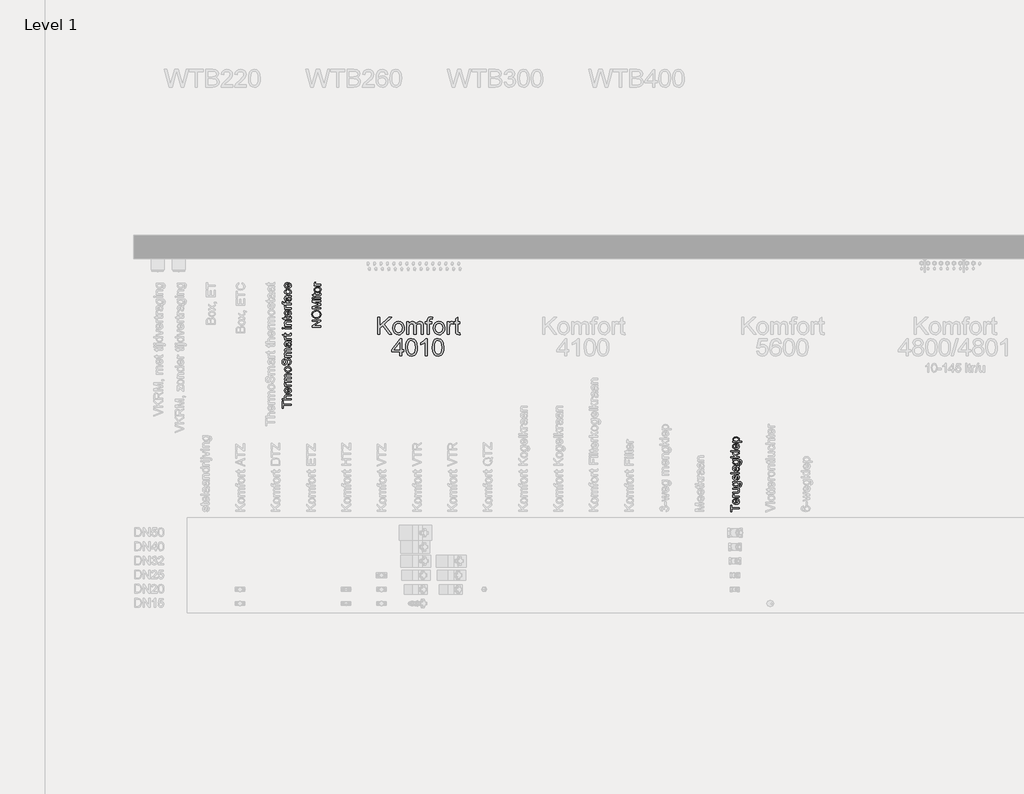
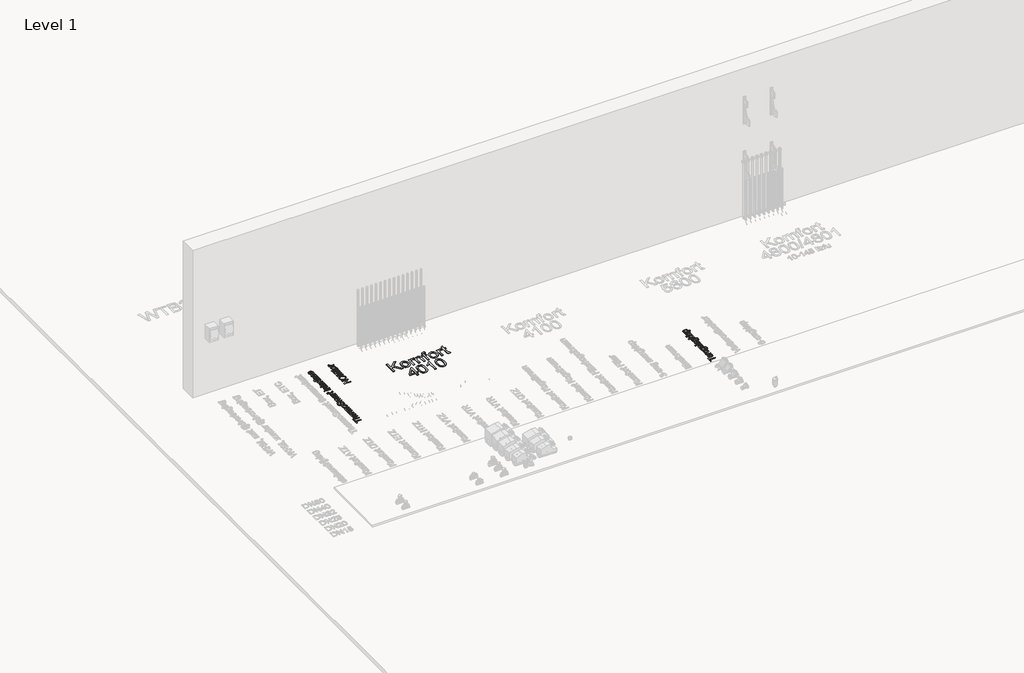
# One storey, part 20 of 34: 4 proxies.
"""IFC4 building model written with IfcOpenShell, lengths in millimetres."""

from ifc_helpers import new_model, si_unit, origin, origin_with_axes, place, context, project, spatial, polyline, outline, extrude, element, save

model = new_model("IFC4")

# Units and contexts
model_context = context("Model", 3, world=origin())
ifc_project = project(units=[si_unit("LENGTHUNIT", "METRE", prefix="MILLI")], contexts=[model_context])

# Site, building, storey
site = spatial("IfcSite", under=ifc_project)
building = spatial("IfcBuilding", under=site)
storey = spatial("IfcBuildingStorey", under=building, Name="Level 1", Elevation=0.0)

# Proxies
placement = place(None, origin())
element("IfcBuildingElementProxy", 1, Name="DN", ObjectType="DN", at=placement, inside=storey, context=model_context, shape_type="SweptSolid", body=[
    extrude(outline(polyline([(-12111.4250614, 5466.2805074), (-12176.040446, 5466.2805074), (-12176.040446, 5442.0497382), (-12185.2712152, 5442.0497382), (-12185.2712152, 5499.7420459), (-12176.040446, 5499.7420459), (-12176.040446, 5475.5112767), (-12111.4250614, 5475.5112767), (-12111.4250614, 5466.2805074)])), origin_with_axes(), (0.0, 0.0, 1.0), 5.0),
    extrude(outline(polyline([(-12127.5789075, 5546.9415651), (-12126.4250614, 5555.9920459), (-12114.5079941, 5547.5275026), (-12110.2712152, 5531.7612767), (-12112.0988895, 5520.9304473), (-12117.5819123, 5512.5966132), (-12126.364214, 5507.2826108), (-12138.0897248, 5505.5112767), (-12150.2096167, 5507.3006396), (-12159.2736191, 5512.6687286), (-12164.9256623, 5520.8898824), (-12166.8096768, 5531.2384401), (-12164.9301695, 5541.2647322), (-12159.2916479, 5549.2763007), (-12150.2456743, 5554.5294557), (-12138.1438114, 5556.2805074), (-12135.6558306, 5556.2264209), (-12135.6558306, 5514.7420459), (-12123.6666479, 5520.0515411), (-12119.5019844, 5531.9415651), (-12121.431071, 5540.9920459), (-12127.5789075, 5546.9415651)]), holes=[polyline([(-12144.8865998, 5514.7420459), (-12144.8865998, 5547.0497382), (-12153.2519844, 5543.3538247), (-12157.5789075, 5531.2023824), (-12154.1263835, 5519.8351949), (-12144.8865998, 5514.7420459)])]), origin_with_axes(), (0.0, 0.0, 1.0), 5.0),
    extrude(outline(polyline([(-12111.4250614, 5565.5112767), (-12165.6558306, 5565.5112767), (-12165.6558306, 5573.5881997), (-12157.6329941, 5573.5881997), (-12165.024821, 5579.3213728), (-12166.8096768, 5585.0906036), (-12163.9611191, 5594.3574305), (-12155.6858787, 5591.2744978), (-12157.5789075, 5584.7841132), (-12155.7579941, 5579.5647622), (-12150.7099171, 5576.2384401), (-12139.9286671, 5574.7420459), (-12111.4250614, 5574.7420459), (-12111.4250614, 5565.5112767)])), origin_with_axes(), (0.0, 0.0, 1.0), 5.0),
    extrude(outline(polyline([(-12111.4250614, 5634.7420459), (-12120.7459748, 5634.7420459), (-12112.8899051, 5627.5124786), (-12110.2712152, 5618.083392), (-12112.1101575, 5609.4025026), (-12116.7255421, 5603.4169257), (-12123.5224171, 5600.6675267), (-12132.1041479, 5600.1266613), (-12165.6558306, 5600.1266613), (-12165.6558306, 5609.3574305), (-12136.4490998, 5609.3574305), (-12127.0380421, 5609.9163247), (-12121.5122008, 5613.5671661), (-12119.5019844, 5620.4451709), (-12121.5572729, 5628.1525026), (-12127.1552296, 5633.2456517), (-12137.4406864, 5634.7420459), (-12165.6558306, 5634.7420459), (-12165.6558306, 5643.9728151), (-12111.4250614, 5643.9728151), (-12111.4250614, 5634.7420459)])), origin_with_axes(), (0.0, 0.0, 1.0), 5.0),
    extrude(outline(polyline([(-12106.8096768, 5654.3574305), (-12105.6558306, 5663.5881997), (-12100.7880421, 5666.5809882), (-12098.7327537, 5675.5413247), (-12101.0584748, 5684.9884401), (-12107.5849171, 5689.4956517), (-12118.3481383, 5690.1266613), (-12113.1558306, 5683.6272622), (-12111.4250614, 5675.7035843), (-12113.4397849, 5666.1866072), (-12119.4839556, 5659.0900026), (-12128.3451335, 5654.6751889), (-12138.8108787, 5653.2035843), (-12153.1167681, 5655.8448103), (-12163.2399652, 5663.4890411), (-12166.8096768, 5675.2528632), (-12164.790446, 5683.4875387), (-12158.7327537, 5690.1266613), (-12165.6558306, 5690.1266613), (-12165.6558306, 5699.3574305), (-12118.8349171, 5699.3574305), (-12100.9052296, 5696.833392), (-12092.5668883, 5688.8375988), (-12089.5019844, 5675.3610363), (-12093.8198931, 5660.0094738), (-12099.2262933, 5655.6712827), (-12106.8096768, 5654.3574305)]), holes=[polyline([(-12139.4418883, 5662.4343536), (-12125.1540277, 5666.3736565), (-12120.6558306, 5676.2624786), (-12125.1269844, 5686.1332718), (-12139.1714556, 5690.1266613), (-12152.9364796, 5686.0160843), (-12157.5789075, 5676.1182478), (-12153.008595, 5666.427743), (-12139.4418883, 5662.4343536)])]), origin_with_axes(), (0.0, 0.0, 1.0), 5.0),
    extrude(outline(polyline([(-12127.5789075, 5709.7420459), (-12128.7327537, 5718.9728151), (-12121.8817921, 5723.2456517), (-12119.5019844, 5733.0353151), (-12121.6834748, 5742.4463728), (-12126.8036671, 5745.5112767), (-12130.9503018, 5742.428344), (-12133.5825133, 5732.927142), (-12138.0987393, 5719.0269017), (-12143.3721768, 5712.9601949), (-12150.8180902, 5710.895892), (-12157.696095, 5712.5545459), (-12162.9515037, 5717.0797863), (-12165.6828739, 5722.9481757), (-12166.8096768, 5730.8898824), (-12164.9977777, 5742.1218536), (-12160.0939316, 5749.2612767), (-12151.8096768, 5752.4343536), (-12150.6558306, 5743.2035843), (-12155.7489796, 5739.7330315), (-12157.5789075, 5731.6110363), (-12155.8301094, 5722.7769017), (-12151.7555902, 5720.1266613), (-12149.0692921, 5721.2264209), (-12147.0320325, 5724.6699305), (-12145.0668883, 5732.6206517), (-12140.7219364, 5746.1693295), (-12135.8000614, 5752.4613968), (-12127.7772248, 5754.7420459), (-12118.9430902, 5752.0647622), (-12112.5338354, 5744.3394017), (-12110.2712152, 5732.9091132), (-12114.634196, 5716.8093536), (-12127.5789075, 5709.7420459)])), origin_with_axes(), (0.0, 0.0, 1.0), 5.0),
    extrude(outline(polyline([(-12111.4250614, 5765.1266613), (-12185.2712152, 5765.1266613), (-12185.2712152, 5774.3574305), (-12111.4250614, 5774.3574305), (-12111.4250614, 5765.1266613)])), origin_with_axes(), (0.0, 0.0, 1.0), 5.0),
    extrude(outline(polyline([(-12118.3481383, 5822.818969), (-12112.0921287, 5813.8676468), (-12110.2712152, 5803.9788247), (-12114.6522248, 5790.5743776), (-12125.8481383, 5785.895892), (-12133.149821, 5787.662719), (-12138.4503018, 5792.3051468), (-12141.4791479, 5798.7684882), (-12142.8673691, 5806.755267), (-12146.040446, 5822.7648824), (-12148.0957344, 5822.818969), (-12154.9106383, 5820.2769017), (-12157.5789075, 5810.0725747), (-12155.8030662, 5800.7336324), (-12149.5019844, 5796.2805074), (-12150.6558306, 5787.0497382), (-12159.6702537, 5791.0431276), (-12164.9527056, 5799.083993), (-12166.8096768, 5811.2624786), (-12165.1690518, 5822.4493776), (-12161.0494604, 5828.7684882), (-12154.7844364, 5831.599017), (-12146.7075133, 5832.0497382), (-12135.2231383, 5832.0497382), (-12119.1864796, 5832.5184882), (-12111.4250614, 5834.3574305), (-12111.4250614, 5825.1266613), (-12118.3481383, 5822.818969)]), holes=[polyline([(-12136.8096768, 5822.818969), (-12133.9791479, 5807.927142), (-12132.4827537, 5799.9854353), (-12130.0488594, 5796.3886805), (-12126.4971768, 5795.1266613), (-12121.5031864, 5797.8760603), (-12119.5019844, 5805.943969), (-12121.7105181, 5815.2829113), (-12127.056071, 5821.3045459), (-12134.1954941, 5822.7648824), (-12136.8096768, 5822.818969)])]), origin_with_axes(), (0.0, 0.0, 1.0), 5.0),
    extrude(outline(polyline([(-12106.8096768, 5842.4343536), (-12105.6558306, 5851.6651228), (-12100.7880421, 5854.6579113), (-12098.7327537, 5863.6182478), (-12101.0584748, 5873.0653632), (-12107.5849171, 5877.5725747), (-12118.3481383, 5878.2035843), (-12113.1558306, 5871.7041853), (-12111.4250614, 5863.7805074), (-12113.4397849, 5854.2635303), (-12119.4839556, 5847.1669257), (-12128.3451335, 5842.752112), (-12138.8108787, 5841.2805074), (-12153.1167681, 5843.9217334), (-12163.2399652, 5851.5659642), (-12166.8096768, 5863.3297863), (-12164.790446, 5871.5644618), (-12158.7327537, 5878.2035843), (-12165.6558306, 5878.2035843), (-12165.6558306, 5887.4343536), (-12118.8349171, 5887.4343536), (-12100.9052296, 5884.9103151), (-12092.5668883, 5876.9145218), (-12089.5019844, 5863.4379593), (-12093.8198931, 5848.0863968), (-12099.2262933, 5843.7482057), (-12106.8096768, 5842.4343536)]), holes=[polyline([(-12139.4418883, 5850.5112767), (-12125.1540277, 5854.4505795), (-12120.6558306, 5864.3394017), (-12125.1269844, 5874.2101949), (-12139.1714556, 5878.2035843), (-12152.9364796, 5874.0930074), (-12157.5789075, 5864.1951709), (-12153.008595, 5854.5046661), (-12139.4418883, 5850.5112767)])]), origin_with_axes(), (0.0, 0.0, 1.0), 5.0),
    extrude(outline(polyline([(-12111.4250614, 5901.2805074), (-12185.2712152, 5901.2805074), (-12185.2712152, 5910.5112767), (-12145.5897248, 5910.5112767), (-12165.6558306, 5931.208392), (-12165.6558306, 5943.9728151), (-12145.337321, 5923.0232959), (-12111.4250614, 5945.1266613), (-12111.4250614, 5934.3454113), (-12138.9190518, 5916.4067093), (-12133.2039075, 5910.5112767), (-12111.4250614, 5910.5112767), (-12111.4250614, 5901.2805074)])), origin_with_axes(), (0.0, 0.0, 1.0), 5.0),
    extrude(outline(polyline([(-12111.4250614, 5953.2035843), (-12185.2712152, 5953.2035843), (-12185.2712152, 5962.4343536), (-12111.4250614, 5962.4343536), (-12111.4250614, 5953.2035843)])), origin_with_axes(), (0.0, 0.0, 1.0), 5.0),
    extrude(outline(polyline([(-12127.5789075, 6014.2492574), (-12126.4250614, 6023.2997382), (-12114.5079941, 6014.8351949), (-12110.2712152, 5999.068969), (-12112.0988895, 5988.2381396), (-12117.5819123, 5979.9043055), (-12126.364214, 5974.5903031), (-12138.0897248, 5972.818969), (-12150.2096167, 5974.6083319), (-12159.2736191, 5979.9764209), (-12164.9256623, 5988.1975747), (-12166.8096768, 5998.5461324), (-12164.9301695, 6008.5724245), (-12159.2916479, 6016.583993), (-12150.2456743, 6021.837148), (-12138.1438114, 6023.5881997), (-12135.6558306, 6023.5341132), (-12135.6558306, 5982.0497382), (-12123.6666479, 5987.3592334), (-12119.5019844, 5999.2492574), (-12121.431071, 6008.2997382), (-12127.5789075, 6014.2492574)]), holes=[polyline([(-12144.8865998, 5982.0497382), (-12144.8865998, 6014.3574305), (-12153.2519844, 6010.661517), (-12157.5789075, 5998.5100747), (-12154.1263835, 5987.1428872), (-12144.8865998, 5982.0497382)])]), origin_with_axes(), (0.0, 0.0, 1.0), 5.0),
    extrude(outline(polyline([(-12090.6558306, 6032.818969), (-12165.6558306, 6032.818969), (-12165.6558306, 6042.0497382), (-12156.6053498, 6042.0497382), (-12164.258595, 6048.4319497), (-12166.8096768, 6057.0497382), (-12163.2399652, 6068.7504593), (-12153.1798691, 6076.3946901), (-12138.9551094, 6078.9728151), (-12124.0001816, 6076.0611565), (-12113.8138835, 6067.6056276), (-12110.2712152, 6055.9319497), (-12112.6420085, 6047.9000988), (-12118.6365998, 6042.0497382), (-12090.6558306, 6042.0497382), (-12090.6558306, 6032.818969)]), holes=[polyline([(-12138.1077537, 6042.0497382), (-12124.0452537, 6046.0431276), (-12119.5019844, 6055.7336324), (-12124.2075133, 6065.6224545), (-12138.7928498, 6069.7420459), (-12152.8914075, 6065.7216132), (-12157.5789075, 6056.1122382), (-12152.5939316, 6046.3135603), (-12138.1077537, 6042.0497382)])]), origin_with_axes(), (0.0, 0.0, 1.0), 5.0),
])
element("IfcBuildingElementProxy", 2, Name="DN", ObjectType="DN", at=placement, inside=storey, context=model_context, shape_type="SweptSolid", body=[
    extrude(outline(polyline([(-15916.0050414, 6347.9438416), (-15981.929495, 6347.9438416), (-15981.929495, 6323.2221716), (-15991.347274, 6323.2221716), (-15991.347274, 6382.0832908), (-15981.929495, 6382.0832908), (-15981.929495, 6357.3616207), (-15916.0050414, 6357.3616207), (-15916.0050414, 6347.9438416)])), origin_with_axes(), (0.0, 0.0, 1.0), 5.0),
    extrude(outline(polyline([(-15916.0050414, 6391.5010699), (-15991.347274, 6391.5010699), (-15991.347274, 6400.9188489), (-15963.6457598, 6400.9188489), (-15970.2952269, 6408.2626933), (-15972.5117159, 6417.3079918), (-15970.0928918, 6427.8845992), (-15963.4066365, 6434.30414), (-15951.0274074, 6436.2355205), (-15916.0050414, 6436.2355205), (-15916.0050414, 6426.8177414), (-15950.0525201, 6426.8177414), (-15959.9853339, 6423.8195031), (-15963.0939368, 6415.3214291), (-15960.9970094, 6407.6051042), (-15955.3132326, 6402.4547563), (-15945.3988128, 6400.9188489), (-15916.0050414, 6400.9188489), (-15916.0050414, 6391.5010699)])), origin_with_axes(), (0.0, 0.0, 1.0), 5.0),
    extrude(outline(polyline([(-15932.4861548, 6487.9229408), (-15931.3089324, 6497.1567789), (-15919.1504325, 6488.520749), (-15914.827819, 6472.4351088), (-15916.6925209, 6461.3848534), (-15922.2866265, 6452.8821808), (-15931.2468523, 6447.4605199), (-15943.209915, 6445.6532996), (-15955.5753485, 6447.478914), (-15964.8229822, 6452.9557572), (-15970.5895325, 6461.3434667), (-15972.5117159, 6471.9016799), (-15970.594131, 6482.1310986), (-15964.8413763, 6490.3049767), (-15955.6121367, 6495.6645575), (-15943.2650973, 6497.4510845), (-15940.7267115, 6497.3959022), (-15940.7267115, 6455.0710786), (-15928.4946352, 6460.488141), (-15924.2455981, 6472.6190498), (-15926.2137668, 6481.8528879), (-15932.4861548, 6487.9229408)]), holes=[polyline([(-15950.1444906, 6455.0710786), (-15950.1444906, 6488.0333054), (-15958.6793529, 6484.262515), (-15963.0939368, 6471.8648917), (-15959.5714667, 6460.2674118), (-15950.1444906, 6455.0710786)])]), origin_with_axes(), (0.0, 0.0, 1.0), 5.0),
    extrude(outline(polyline([(-15916.0050414, 6506.8688636), (-15971.3344935, 6506.8688636), (-15971.3344935, 6515.1094202), (-15963.1491191, 6515.1094202), (-15970.6907, 6520.958744), (-15972.5117159, 6526.8448559), (-15969.6054481, 6536.2994232), (-15961.1625563, 6533.1540321), (-15963.0939368, 6526.5321562), (-15961.2361327, 6521.2070643), (-15956.0857848, 6517.8133529), (-15945.0861131, 6516.2866426), (-15916.0050414, 6516.2866426), (-15916.0050414, 6506.8688636)])), origin_with_axes(), (0.0, 0.0, 1.0), 5.0),
    extrude(outline(polyline([(-15916.0050414, 6542.1855351), (-15971.3344935, 6542.1855351), (-15971.3344935, 6551.6033142), (-15962.2294141, 6551.6033142), (-15969.6882216, 6558.0780373), (-15972.5117159, 6567.2934813), (-15969.6330393, 6576.7296544), (-15961.5672265, 6581.9167906), (-15969.7755935, 6589.2652334), (-15972.5117159, 6598.5450568), (-15967.9591762, 6610.8599065), (-15953.9336751, 6615.1733229), (-15916.0050414, 6615.1733229), (-15916.0050414, 6605.7555439), (-15949.8869732, 6605.7555439), (-15957.7504508, 6604.8818241), (-15961.6224088, 6601.718039), (-15963.0939368, 6596.3377648), (-15959.3231463, 6587.0763356), (-15947.2382228, 6583.3883186), (-15916.0050414, 6583.3883186), (-15916.0050414, 6573.9705395), (-15950.9354369, 6573.9705395), (-15960.0589103, 6571.7908387), (-15963.0939368, 6564.6447309), (-15961.0705858, 6557.6733671), (-15955.1476857, 6553.038054), (-15943.9088907, 6551.6033142), (-15916.0050414, 6551.6033142), (-15916.0050414, 6542.1855351)])), origin_with_axes(), (0.0, 0.0, 1.0), 5.0),
    extrude(outline(polyline([(-15943.6697675, 6626.9455468), (-15957.0100883, 6628.9826933), (-15966.3864807, 6635.094133), (-15970.9804071, 6642.6449109), (-15972.5117159, 6651.685611), (-15970.647014, 6661.5793374), (-15965.0529084, 6669.4819025), (-15956.1708575, 6674.6621408), (-15944.4423196, 6676.3888869), (-15927.6852948, 6673.3354664), (-15918.2031363, 6664.4419191), (-15914.827819, 6651.685611), (-15916.6856231, 6641.6723229), (-15922.2590353, 6633.7789548), (-15931.3273265, 6628.6538988), (-15943.6697675, 6626.9455468)]), holes=[polyline([(-15943.6881616, 6636.3633259), (-15929.0924434, 6640.7227275), (-15924.2455981, 6651.685611), (-15929.1200345, 6662.6117062), (-15943.9824671, 6666.9711079), (-15958.2470915, 6662.5841151), (-15963.0939368, 6651.685611), (-15958.2654856, 6640.7227275), (-15943.6881616, 6636.3633259)])]), origin_with_axes(), (0.0, 0.0, 1.0), 5.0),
    extrude(outline(polyline([(-15941.9039339, 6684.6294436), (-15941.9039339, 6694.0472227), (-15932.4769577, 6697.0822492), (-15926.5172694, 6704.4950714), (-15924.2455981, 6715.7890486), (-15925.9654464, 6725.629892), (-15930.6927301, 6731.9850535), (-15937.0111033, 6734.0727838), (-15942.8880182, 6732.5092853), (-15947.1646464, 6726.1081386), (-15950.7606929, 6712.3953372), (-15955.4052031, 6697.6340722), (-15962.4133551, 6689.6234417), (-15971.7759519, 6686.9838884), (-15982.4353327, 6690.2488411), (-15989.9585195, 6699.7861818), (-15992.5244964, 6713.7473035), (-15989.8389578, 6728.6465243), (-15981.9478891, 6738.5793382), (-15970.1572711, 6742.3133405), (-15970.1572711, 6732.8955614), (-15979.8325676, 6727.5612725), (-15983.1067173, 6714.1151855), (-15979.8693558, 6700.6323104), (-15972.0518634, 6696.4016675), (-15965.521958, 6699.3999057), (-15960.2612454, 6714.7773731), (-15955.5339618, 6731.4424275), (-15947.9004104, 6740.5567039), (-15937.2502266, 6743.4905629), (-15925.9838405, 6740.1152455), (-15917.7616779, 6730.4031609), (-15914.827819, 6716.1569306), (-15917.9916042, 6699.3355264), (-15927.5197479, 6688.6945397), (-15941.9039339, 6684.6294436)])), origin_with_axes(), (0.0, 0.0, 1.0), 5.0),
    extrude(outline(polyline([(-15916.0050414, 6756.4400091), (-15971.3344935, 6756.4400091), (-15971.3344935, 6765.8577882), (-15962.2294141, 6765.8577882), (-15969.6882216, 6772.3325113), (-15972.5117159, 6781.5479553), (-15969.6330393, 6790.9841284), (-15961.5672265, 6796.1712646), (-15969.7755935, 6803.5197074), (-15972.5117159, 6812.7995307), (-15967.9591762, 6825.1143805), (-15953.9336751, 6829.4277969), (-15916.0050414, 6829.4277969), (-15916.0050414, 6820.0100179), (-15949.8869732, 6820.0100179), (-15957.7504508, 6819.1362981), (-15961.6224088, 6815.972513), (-15963.0939368, 6810.5922388), (-15959.3231463, 6801.3308095), (-15947.2382228, 6797.6427925), (-15916.0050414, 6797.6427925), (-15916.0050414, 6788.2250135), (-15950.9354369, 6788.2250135), (-15960.0589103, 6786.0453126), (-15963.0939368, 6778.8992049), (-15961.0705858, 6771.9278411), (-15955.1476857, 6767.2925279), (-15943.9088907, 6765.8577882), (-15916.0050414, 6765.8577882), (-15916.0050414, 6756.4400091)])), origin_with_axes(), (0.0, 0.0, 1.0), 5.0),
    extrude(outline(polyline([(-15923.0683757, 6878.8711371), (-15916.6856231, 6869.7384665), (-15914.827819, 6859.6493028), (-15919.2975853, 6845.9732897), (-15930.7203212, 6841.2000208), (-15938.1699316, 6843.0026425), (-15943.577797, 6847.7391232), (-15946.6680057, 6854.333408), (-15948.0843514, 6862.4819942), (-15951.321713, 6878.8159548), (-15953.4186403, 6878.8711371), (-15960.37161, 6876.277569), (-15963.0939368, 6865.8665085), (-15961.282118, 6856.3383649), (-15954.8533801, 6851.7950222), (-15956.0306025, 6842.3772432), (-15965.2276524, 6846.4515363), (-15970.6171236, 6854.6553047), (-15972.5117159, 6867.0805191), (-15970.8378528, 6878.494058), (-15966.634801, 6884.94119), (-15960.2428513, 6887.8290637), (-15952.0022946, 6888.2889162), (-15940.2852531, 6888.2889162), (-15923.9237014, 6888.7671627), (-15916.0050414, 6890.6433609), (-15916.0050414, 6881.2255818), (-15923.0683757, 6878.8711371)]), holes=[polyline([(-15941.9039339, 6878.8711371), (-15939.0160602, 6863.6776107), (-15937.4893499, 6855.5750097), (-15935.0061465, 6851.9053868), (-15931.3825088, 6850.6177998), (-15926.2873432, 6853.4229001), (-15924.2455981, 6861.6542597), (-15926.4988753, 6871.1824034), (-15931.9527259, 6877.3260327), (-15939.2367894, 6878.8159548), (-15941.9039339, 6878.8711371)])]), origin_with_axes(), (0.0, 0.0, 1.0), 5.0),
    extrude(outline(polyline([(-15916.0050414, 6901.2383624), (-15971.3344935, 6901.2383624), (-15971.3344935, 6909.4789191), (-15963.1491191, 6909.4789191), (-15970.6907, 6915.3282428), (-15972.5117159, 6921.2143547), (-15969.6054481, 6930.668922), (-15961.1625563, 6927.5235309), (-15963.0939368, 6920.901655), (-15961.2361327, 6915.5765631), (-15956.0857848, 6912.1828517), (-15945.0861131, 6910.6561415), (-15916.0050414, 6910.6561415), (-15916.0050414, 6901.2383624)])), origin_with_axes(), (0.0, 0.0, 1.0), 5.0),
    extrude(outline(polyline([(-15923.859322, 6956.5678145), (-15915.7291299, 6957.7450368), (-15914.827819, 6950.7000966), (-15916.3913175, 6942.8090278), (-15920.4932018, 6938.8726905), (-15931.1801737, 6937.7322563), (-15961.9167144, 6937.7322563), (-15961.9167144, 6930.668922), (-15971.3344935, 6930.668922), (-15971.3344935, 6937.7322563), (-15984.7805804, 6937.7322563), (-15990.3172044, 6947.1500354), (-15971.3344935, 6947.1500354), (-15971.3344935, 6956.5678145), (-15961.9167144, 6956.5678145), (-15961.9167144, 6947.1500354), (-15931.4560852, 6947.1500354), (-15926.6000429, 6947.6466761), (-15924.8801945, 6949.2561598), (-15924.2455981, 6952.4659302), (-15923.859322, 6956.5678145)])), origin_with_axes(), (0.0, 0.0, 1.0), 5.0),
    extrude(outline(polyline([(-15981.929495, 6995.4161532), (-15991.347274, 6995.4161532), (-15991.347274, 7004.8339322), (-15981.929495, 7004.8339322), (-15981.929495, 6995.4161532)])), origin_with_axes(), (0.0, 0.0, 1.0), 5.0),
    extrude(outline(polyline([(-15916.0050414, 6995.4161532), (-15971.3344935, 6995.4161532), (-15971.3344935, 7004.8339322), (-15916.0050414, 7004.8339322), (-15916.0050414, 6995.4161532)])), origin_with_axes(), (0.0, 0.0, 1.0), 5.0),
    extrude(outline(polyline([(-15916.0050414, 7018.9606008), (-15971.3344935, 7018.9606008), (-15971.3344935, 7028.3783799), (-15963.6089716, 7028.3783799), (-15970.2860298, 7035.57967), (-15972.5117159, 7045.4113163), (-15970.7182911, 7054.3048635), (-15966.0094016, 7060.3749164), (-15959.0840231, 7063.1984108), (-15949.9789437, 7063.6950515), (-15916.0050414, 7063.6950515), (-15916.0050414, 7054.2772724), (-15948.7097508, 7054.2772724), (-15957.042278, 7053.1920205), (-15961.4476649, 7049.3568507), (-15963.0939368, 7042.8913246), (-15959.3967227, 7032.6734022), (-15945.3620246, 7028.3783799), (-15916.0050414, 7028.3783799), (-15916.0050414, 7018.9606008)])), origin_with_axes(), (0.0, 0.0, 1.0), 5.0),
    extrude(outline(polyline([(-15923.859322, 7096.6572782), (-15915.7291299, 7097.8345006), (-15914.827819, 7090.7895604), (-15916.3913175, 7082.8984916), (-15920.4932018, 7078.9621543), (-15931.1801737, 7077.8217201), (-15961.9167144, 7077.8217201), (-15961.9167144, 7070.7583858), (-15971.3344935, 7070.7583858), (-15971.3344935, 7077.8217201), (-15984.7805804, 7077.8217201), (-15990.3172044, 7087.2394991), (-15971.3344935, 7087.2394991), (-15971.3344935, 7096.6572782), (-15961.9167144, 7096.6572782), (-15961.9167144, 7087.2394991), (-15931.4560852, 7087.2394991), (-15926.6000429, 7087.7361398), (-15924.8801945, 7089.3456236), (-15924.2455981, 7092.555394), (-15923.859322, 7096.6572782)])), origin_with_axes(), (0.0, 0.0, 1.0), 5.0),
    extrude(outline(polyline([(-15932.4861548, 7144.8130314), (-15931.3089324, 7154.0468695), (-15919.1504325, 7145.4108396), (-15914.827819, 7129.3251994), (-15916.6925209, 7118.274944), (-15922.2866265, 7109.7722714), (-15931.2468523, 7104.3506104), (-15943.209915, 7102.5433901), (-15955.5753485, 7104.3690045), (-15964.8229822, 7109.8458478), (-15970.5895325, 7118.2335572), (-15972.5117159, 7128.7917705), (-15970.594131, 7139.0211892), (-15964.8413763, 7147.1950673), (-15955.6121367, 7152.5546481), (-15943.2650973, 7154.3411751), (-15940.7267115, 7154.2859928), (-15940.7267115, 7111.9611692), (-15928.4946352, 7117.3782316), (-15924.2455981, 7129.5091404), (-15926.2137668, 7138.7429785), (-15932.4861548, 7144.8130314)]), holes=[polyline([(-15950.1444906, 7111.9611692), (-15950.1444906, 7144.923396), (-15958.6793529, 7141.1526055), (-15963.0939368, 7128.7549823), (-15959.5714667, 7117.1575024), (-15950.1444906, 7111.9611692)])]), origin_with_axes(), (0.0, 0.0, 1.0), 5.0),
    extrude(outline(polyline([(-15916.0050414, 7163.7589541), (-15971.3344935, 7163.7589541), (-15971.3344935, 7171.9995108), (-15963.1491191, 7171.9995108), (-15970.6907, 7177.8488346), (-15972.5117159, 7183.7349465), (-15969.6054481, 7193.1895138), (-15961.1625563, 7190.0441227), (-15963.0939368, 7183.4222468), (-15961.2361327, 7178.0971549), (-15956.0857848, 7174.7034435), (-15945.0861131, 7173.1767332), (-15916.0050414, 7173.1767332), (-15916.0050414, 7163.7589541)])), origin_with_axes(), (0.0, 0.0, 1.0), 5.0),
    extrude(outline(polyline([(-15916.0050414, 7201.4300704), (-15961.9167144, 7201.4300704), (-15961.9167144, 7193.1895138), (-15971.3344935, 7193.1895138), (-15971.3344935, 7201.4300704), (-15976.9079057, 7201.4300704), (-15984.7621863, 7202.4233518), (-15990.3723867, 7207.242606), (-15992.5244964, 7216.7339614), (-15991.4944268, 7225.324006), (-15982.6652589, 7223.9444486), (-15983.1067173, 7218.5181891), (-15981.5432189, 7212.586092), (-15975.7122892, 7210.8478495), (-15971.3344935, 7210.8478495), (-15971.3344935, 7221.442851), (-15961.9167144, 7221.442851), (-15961.9167144, 7210.8478495), (-15916.0050414, 7210.8478495), (-15916.0050414, 7201.4300704)])), origin_with_axes(), (0.0, 0.0, 1.0), 5.0),
    extrude(outline(polyline([(-15923.0683757, 7265.0000792), (-15916.6856231, 7255.8674087), (-15914.827819, 7245.778245), (-15919.2975853, 7232.1022318), (-15930.7203212, 7227.3289629), (-15938.1699316, 7229.1315847), (-15943.577797, 7233.8680654), (-15946.6680057, 7240.4623501), (-15948.0843514, 7248.6109363), (-15951.321713, 7264.9448969), (-15953.4186403, 7265.0000792), (-15960.37161, 7262.4065111), (-15963.0939368, 7251.9954507), (-15961.282118, 7242.467307), (-15954.8533801, 7237.9239644), (-15956.0306025, 7228.5061853), (-15965.2276524, 7232.5804784), (-15970.6171236, 7240.7842469), (-15972.5117159, 7253.2094613), (-15970.8378528, 7264.6230002), (-15966.634801, 7271.0701321), (-15960.2428513, 7273.9580058), (-15952.0022946, 7274.4178583), (-15940.2852531, 7274.4178583), (-15923.9237014, 7274.8961049), (-15916.0050414, 7276.7723031), (-15916.0050414, 7267.354524), (-15923.0683757, 7265.0000792)]), holes=[polyline([(-15941.9039339, 7265.0000792), (-15939.0160602, 7249.8065528), (-15937.4893499, 7241.7039519), (-15935.0061465, 7238.034329), (-15931.3825088, 7236.746742), (-15926.2873432, 7239.5518422), (-15924.2455981, 7247.7832018), (-15926.4988753, 7257.3113455), (-15931.9527259, 7263.4549748), (-15939.2367894, 7264.9448969), (-15941.9039339, 7265.0000792)])]), origin_with_axes(), (0.0, 0.0, 1.0), 5.0),
    extrude(outline(polyline([(-15936.017822, 7322.6839761), (-15934.8405996, 7332.1017551), (-15920.1345168, 7324.5417801), (-15914.827819, 7309.6057711), (-15916.6787253, 7299.5878846), (-15922.2314442, 7291.7542973), (-15931.2422538, 7286.6982191), (-15943.4674324, 7285.0128598), (-15959.1116142, 7287.8915364), (-15969.1639897, 7296.665522), (-15972.5117159, 7309.4770124), (-15967.9131909, 7323.7968191), (-15954.8533801, 7330.9245328), (-15953.6761577, 7321.5067537), (-15960.730295, 7317.138155), (-15963.0939368, 7309.5505888), (-15958.4402296, 7298.6336906), (-15943.7249498, 7294.4306388), (-15928.8717142, 7298.5417201), (-15924.2455981, 7309.2930714), (-15927.1334718, 7318.1682246), (-15936.017822, 7322.6839761)])), origin_with_axes(), (0.0, 0.0, 1.0), 5.0),
    extrude(outline(polyline([(-15932.4861548, 7379.0802859), (-15931.3089324, 7388.314124), (-15919.1504325, 7379.6780942), (-15914.827819, 7363.5924539), (-15916.6925209, 7352.5421985), (-15922.2866265, 7344.0395259), (-15931.2468523, 7338.617865), (-15943.209915, 7336.8106447), (-15955.5753485, 7338.6362591), (-15964.8229822, 7344.1131023), (-15970.5895325, 7352.5008118), (-15972.5117159, 7363.059025), (-15970.594131, 7373.2884438), (-15964.8413763, 7381.4623218), (-15955.6121367, 7386.8219027), (-15943.2650973, 7388.6084296), (-15940.7267115, 7388.5532473), (-15940.7267115, 7346.2284238), (-15928.4946352, 7351.6454861), (-15924.2455981, 7363.7763949), (-15926.2137668, 7373.010233), (-15932.4861548, 7379.0802859)]), holes=[polyline([(-15950.1444906, 7346.2284238), (-15950.1444906, 7379.1906505), (-15958.6793529, 7375.4198601), (-15963.0939368, 7363.0222368), (-15959.5714667, 7351.4247569), (-15950.1444906, 7346.2284238)])]), origin_with_axes(), (0.0, 0.0, 1.0), 5.0),
])
element("IfcBuildingElementProxy", 3, Name="DN", ObjectType="DN", at=placement, inside=storey, context=model_context, shape_type="SweptSolid", body=[
    extrude(outline(polyline([(-15663.5050414, 7010.7200441), (-15738.847274, 7010.7200441), (-15738.847274, 7020.8000108), (-15679.1584203, 7060.1633843), (-15738.847274, 7060.1633843), (-15738.847274, 7069.5811634), (-15663.5050414, 7069.5811634), (-15663.5050414, 7059.5011967), (-15723.2122892, 7020.1378232), (-15663.5050414, 7020.1378232), (-15663.5050414, 7010.7200441)])), origin_with_axes(), (0.0, 0.0, 1.0), 5.0),
    extrude(outline(polyline([(-15700.1828763, 7082.5306096), (-15716.8433322, 7085.0414042), (-15729.4478891, 7092.5737881), (-15737.3803446, 7104.074699), (-15740.0244964, 7118.4910746), (-15735.0580895, 7137.2346623), (-15721.2073324, 7149.9633793), (-15701.047399, 7154.3411751), (-15680.6115542, 7149.7334531), (-15666.9631322, 7136.6736422), (-15662.327819, 7118.4358923), (-15667.4505758, 7099.4899696), (-15681.4300916, 7086.834829), (-15700.1828763, 7082.5306096)]), holes=[polyline([(-15700.0909058, 7091.9483887), (-15688.3048864, 7093.8314846), (-15679.3239672, 7099.4807725), (-15673.6401904, 7107.9719488), (-15671.7455981, 7118.38071), (-15673.6585845, 7128.9412226), (-15679.3975436, 7137.4461944), (-15688.6543743, 7143.0540956), (-15701.1209754, 7144.923396), (-15716.6639897, 7141.7228226), (-15726.9554885, 7132.3694229), (-15730.6067173, 7118.5462569), (-15728.8477815, 7108.4157065), (-15723.5709742, 7099.8026693), (-15714.1830855, 7093.9119588), (-15700.0909058, 7091.9483887)])]), origin_with_axes(), (0.0, 0.0, 1.0), 5.0),
    extrude(outline(polyline([(-15663.5050414, 7167.2906213), (-15738.847274, 7167.2906213), (-15738.847274, 7183.4958232), (-15685.743508, 7198.9100788), (-15674.6518659, 7202.0186816), (-15686.663213, 7205.3848019), (-15738.847274, 7220.5415401), (-15738.847274, 7236.746742), (-15663.5050414, 7236.746742), (-15663.5050414, 7227.3289629), (-15729.429495, 7227.3289629), (-15663.5050414, 7208.4014343), (-15663.5050414, 7195.635929), (-15729.429495, 7176.7084004), (-15663.5050414, 7176.7084004), (-15663.5050414, 7167.2906213)])), origin_with_axes(), (0.0, 0.0, 1.0), 5.0),
    extrude(outline(polyline([(-15663.5050414, 7252.050633), (-15718.8344935, 7252.050633), (-15718.8344935, 7261.4684121), (-15663.5050414, 7261.4684121), (-15663.5050414, 7252.050633)])), origin_with_axes(), (0.0, 0.0, 1.0), 5.0),
    extrude(outline(polyline([(-15729.429495, 7252.050633), (-15738.847274, 7252.050633), (-15738.847274, 7261.4684121), (-15729.429495, 7261.4684121), (-15729.429495, 7252.050633)])), origin_with_axes(), (0.0, 0.0, 1.0), 5.0),
    extrude(outline(polyline([(-15671.359322, 7295.6078612), (-15663.2291299, 7296.7850836), (-15662.327819, 7289.7401434), (-15663.8913175, 7281.8490746), (-15667.9932018, 7277.9127372), (-15678.6801737, 7276.7723031), (-15709.4167144, 7276.7723031), (-15709.4167144, 7269.7089688), (-15718.8344935, 7269.7089688), (-15718.8344935, 7276.7723031), (-15732.2805804, 7276.7723031), (-15737.8172044, 7286.1900821), (-15718.8344935, 7286.1900821), (-15718.8344935, 7295.6078612), (-15709.4167144, 7295.6078612), (-15709.4167144, 7286.1900821), (-15678.9560852, 7286.1900821), (-15674.1000429, 7286.6867228), (-15672.3801945, 7288.2962066), (-15671.7455981, 7291.505977), (-15671.359322, 7295.6078612)])), origin_with_axes(), (0.0, 0.0, 1.0), 5.0),
    extrude(outline(polyline([(-15691.1697675, 7302.6711955), (-15704.5100883, 7304.7083421), (-15713.8864807, 7310.8197817), (-15718.4804071, 7318.3705597), (-15720.0117159, 7327.4112597), (-15718.147014, 7337.3049861), (-15712.5529084, 7345.2075512), (-15703.6708575, 7350.3877896), (-15691.9423196, 7352.1145357), (-15675.1852948, 7349.0611151), (-15665.7031363, 7340.1675679), (-15662.327819, 7327.4112597), (-15664.1856231, 7317.3979716), (-15669.7590353, 7309.5046036), (-15678.8273265, 7304.3795475), (-15691.1697675, 7302.6711955)]), holes=[polyline([(-15691.1881616, 7312.0889746), (-15676.5924434, 7316.4483762), (-15671.7455981, 7327.4112597), (-15676.6200345, 7338.337355), (-15691.4824671, 7342.6967566), (-15705.7470915, 7338.3097638), (-15710.5939368, 7327.4112597), (-15705.7654856, 7316.4483762), (-15691.1881616, 7312.0889746)])]), origin_with_axes(), (0.0, 0.0, 1.0), 5.0),
    extrude(outline(polyline([(-15663.5050414, 7362.7095371), (-15718.8344935, 7362.7095371), (-15718.8344935, 7370.9500938), (-15710.6491191, 7370.9500938), (-15718.1907, 7376.7994176), (-15720.0117159, 7382.6855295), (-15717.1054481, 7392.1400967), (-15708.6625563, 7388.9947057), (-15710.5939368, 7382.3728298), (-15708.7361327, 7377.0477379), (-15703.5857848, 7373.6540265), (-15692.5861131, 7372.1273162), (-15663.5050414, 7372.1273162), (-15663.5050414, 7362.7095371)])), origin_with_axes(), (0.0, 0.0, 1.0), 5.0),
])
element("IfcBuildingElementProxy", 4, Name="type", ObjectType="type", at=placement, inside=storey, context=model_context, shape_type="SweptSolid", body=[
    extrude(outline(polyline([(-15182.4458673, 6948.0579707), (-15182.4458673, 7095.7502784), (-15163.9843288, 7095.7502784), (-15163.9843288, 7023.4546053), (-15088.263175, 7095.7502784), (-15062.4458673, 7095.7502784), (-15126.0155788, 7035.0291245), (-15060.138175, 6948.0579707), (-15082.7102904, 6948.0579707), (-15139.1045211, 7022.553163), (-15163.9843288, 6998.8272014), (-15163.9843288, 6948.0579707), (-15182.4458673, 6948.0579707)])), origin_with_axes(), (0.0, 0.0, 1.0), 5.0),
    extrude(outline(polyline([(-15053.2150981, 7002.2887399), (-15049.2217086, 7028.4395812), (-15037.2415404, 7046.8199899), (-15022.4398577, 7055.8253985), (-15004.7175019, 7058.8272014), (-14985.3229706, 7055.1718529), (-14969.8316846, 7044.2058072), (-14959.676937, 7026.794449), (-14956.2920211, 7003.803163), (-14957.7884154, 6985.1523216), (-14962.2775981, 6970.9546053), (-14969.6288601, 6960.3220933), (-14979.7114923, 6952.3668649), (-14991.6871533, 6947.404425), (-15004.7175019, 6945.7502784), (-15024.3464081, 6949.3921053), (-15039.8196654, 6960.317586), (-15049.8662399, 6978.0940284), (-15053.2150981, 7002.2887399)]), holes=[polyline([(-15034.7535596, 7002.3247976), (-15032.6171413, 6985.6165644), (-15026.2078865, 6973.7130187), (-15016.5624538, 6966.5871173), (-15004.7175019, 6964.2118168), (-14992.9266365, 6966.6006389), (-14983.2992327, 6973.7671053), (-14976.8899779, 6985.8284034), (-14974.7535596, 7002.9017207), (-14976.9034995, 7019.123175), (-14983.3533192, 7030.864461), (-14992.9942447, 7037.9903625), (-15004.7175019, 7040.365663), (-15016.5624538, 7037.9993769), (-15026.2078865, 7030.9005187), (-15032.6171413, 7019.0240163), (-15034.7535596, 7002.3247976)])]), origin_with_axes(), (0.0, 0.0, 1.0), 5.0),
    extrude(outline(polyline([(-14935.5227904, 6948.0579707), (-14935.5227904, 7056.5195091), (-14917.0612519, 7056.5195091), (-14917.0612519, 7038.6709514), (-14904.3689442, 7053.2923457), (-14886.3040404, 7058.8272014), (-14876.0366125, 7057.4164442), (-14867.8064442, 7053.1841726), (-14857.638175, 7037.3728745), (-14843.2331269, 7053.4636197), (-14825.0420211, 7058.8272014), (-14811.1643168, 7056.5961317), (-14800.9013961, 7049.9029226), (-14794.5597495, 7038.5672856), (-14792.4458673, 7022.4089322), (-14792.4458673, 6948.0579707), (-14810.9074057, 6948.0579707), (-14810.9074057, 7014.4762399), (-14812.6201461, 7029.8909034), (-14818.8220692, 7037.4810476), (-14829.3689442, 7040.365663), (-14839.3704466, 7038.5177062), (-14847.5239923, 7032.973836), (-14852.9461678, 7023.3554466), (-14854.7535596, 7009.2839322), (-14854.7535596, 6948.0579707), (-14873.2150981, 6948.0579707), (-14873.2150981, 7016.5315284), (-14877.4879346, 7034.4161437), (-14883.1264562, 7038.8782832), (-14891.4963481, 7040.365663), (-14905.1622134, 7036.3993168), (-14914.2487519, 7024.7887399), (-14917.0612519, 7002.7574899), (-14917.0612519, 6948.0579707), (-14935.5227904, 6948.0579707)])), origin_with_axes(), (0.0, 0.0, 1.0), 5.0),
    extrude(outline(polyline([(-14760.138175, 6948.0579707), (-14760.138175, 7038.0579707), (-14776.2920211, 7038.0579707), (-14776.2920211, 7056.5195091), (-14760.138175, 7056.5195091), (-14760.138175, 7067.4449899), (-14758.1910596, 7082.8416245), (-14748.7439442, 7093.8392207), (-14730.138175, 7098.0579707), (-14713.2992327, 7096.0387399), (-14716.0035596, 7078.7310476), (-14726.6405788, 7079.5964322), (-14738.2691846, 7076.5315284), (-14741.6766365, 7065.1012399), (-14741.6766365, 7056.5195091), (-14720.9074057, 7056.5195091), (-14720.9074057, 7038.0579707), (-14741.6766365, 7038.0579707), (-14741.6766365, 6948.0579707), (-14760.138175, 6948.0579707)])), origin_with_axes(), (0.0, 0.0, 1.0), 5.0),
    extrude(outline(polyline([(-14709.3689442, 7002.2887399), (-14705.3755548, 7028.4395812), (-14693.3953865, 7046.8199899), (-14678.5937038, 7055.8253985), (-14660.8713481, 7058.8272014), (-14641.4768168, 7055.1718529), (-14625.9855307, 7044.2058072), (-14615.8307831, 7026.794449), (-14612.4458673, 7003.803163), (-14613.9422615, 6985.1523216), (-14618.4314442, 6970.9546053), (-14625.7827062, 6960.3220933), (-14635.8653384, 6952.3668649), (-14647.8409995, 6947.404425), (-14660.8713481, 6945.7502784), (-14680.5002543, 6949.3921053), (-14695.9735115, 6960.317586), (-14706.020086, 6978.0940284), (-14709.3689442, 7002.2887399)]), holes=[polyline([(-14690.9074057, 7002.3247976), (-14688.7709875, 6985.6165644), (-14682.3617327, 6973.7130187), (-14672.7163, 6966.5871173), (-14660.8713481, 6964.2118168), (-14649.0804827, 6966.6006389), (-14639.4530788, 6973.7671053), (-14633.043824, 6985.8284034), (-14630.9074057, 7002.9017207), (-14633.0573456, 7019.123175), (-14639.5071654, 7030.864461), (-14649.1480908, 7037.9903625), (-14660.8713481, 7040.365663), (-14672.7163, 7037.9993769), (-14682.3617327, 7030.9005187), (-14688.7709875, 7019.0240163), (-14690.9074057, 7002.3247976)])]), origin_with_axes(), (0.0, 0.0, 1.0), 5.0),
    extrude(outline(polyline([(-14591.6766365, 6948.0579707), (-14591.6766365, 7056.5195091), (-14575.5227904, 7056.5195091), (-14575.5227904, 7040.473836), (-14564.0564442, 7055.2574899), (-14552.5179827, 7058.8272014), (-14533.9843288, 7053.130086), (-14540.1501942, 7036.5796053), (-14553.1309634, 7040.365663), (-14563.5696654, 7036.723836), (-14570.2223096, 7026.6276822), (-14573.2150981, 7005.0651822), (-14573.2150981, 6948.0579707), (-14591.6766365, 6948.0579707)])), origin_with_axes(), (0.0, 0.0, 1.0), 5.0),
    extrude(outline(polyline([(-14483.2150981, 6963.4546053), (-14480.9074057, 6947.5171053), (-14494.7175019, 6945.7502784), (-14510.1862519, 6948.8151822), (-14517.9025981, 6956.8560476), (-14520.138175, 6977.8055668), (-14520.138175, 7038.0579707), (-14533.9843288, 7038.0579707), (-14533.9843288, 7056.5195091), (-14520.138175, 7056.5195091), (-14520.138175, 7082.8776822), (-14501.6766365, 7093.7310476), (-14501.6766365, 7056.5195091), (-14483.2150981, 7056.5195091), (-14483.2150981, 7038.0579707), (-14501.6766365, 7038.0579707), (-14501.6766365, 6978.3464322), (-14500.7030788, 6968.8272014), (-14497.5480307, 6965.4558072), (-14491.2559634, 6964.2118168), (-14483.2150981, 6963.4546053)])), origin_with_axes(), (0.0, 0.0, 1.0), 5.0),
    extrude(outline(polyline([(-14995.5227904, 6765.7502784), (-14995.5227904, 6800.365663), (-15062.4458673, 6800.365663), (-15062.4458673, 6818.8272014), (-14990.9074057, 6911.1348937), (-14977.0612519, 6911.1348937), (-14977.0612519, 6818.8272014), (-14958.5997134, 6818.8272014), (-14958.5997134, 6800.365663), (-14977.0612519, 6800.365663), (-14977.0612519, 6765.7502784), (-14995.5227904, 6765.7502784)]), holes=[polyline([(-14995.5227904, 6818.8272014), (-14995.5227904, 6875.8704707), (-15039.7295211, 6818.8272014), (-14995.5227904, 6818.8272014)])]), origin_with_axes(), (0.0, 0.0, 1.0), 5.0),
    extrude(outline(polyline([(-14942.4458673, 6838.4065284), (-14941.0891966, 6862.0468529), (-14937.0191846, 6880.9005187), (-14930.2763961, 6895.2559875), (-14920.9013961, 6905.4017207), (-14908.8265764, 6911.4323697), (-14893.9843288, 6913.442586), (-14872.4218288, 6908.6829707), (-14857.5300019, 6894.9630187), (-14848.8761557, 6873.1120572), (-14845.5227904, 6838.4065284), (-14846.8659394, 6814.9014202), (-14850.8953865, 6796.0928264), (-14857.5976101, 6781.723836), (-14866.9590884, 6771.537538), (-14879.0609514, 6765.466324), (-14893.9843288, 6763.442586), (-14913.1670211, 6766.958211), (-14927.7343288, 6777.505086), (-14938.7679827, 6802.4840524), (-14942.4458673, 6838.4065284)]), holes=[polyline([(-14923.9843288, 6838.442586), (-14921.8208673, 6809.4026221), (-14915.3304827, 6792.5952303), (-14905.6670211, 6784.576901), (-14893.9843288, 6781.9041245), (-14882.3016365, 6784.5859154), (-14872.638175, 6792.631288), (-14866.1477904, 6809.4476942), (-14863.9843288, 6838.442586), (-14866.075675, 6866.8290043), (-14872.3497134, 6883.7671053), (-14881.9951461, 6892.177562), (-14894.200675, 6894.9810476), (-14905.7571654, 6892.5110957), (-14915.0420211, 6885.1012399), (-14921.7487519, 6867.1084514), (-14923.9843288, 6838.442586)])]), origin_with_axes(), (0.0, 0.0, 1.0), 5.0),
    extrude(outline(polyline([(-14760.138175, 6765.7502784), (-14778.5997134, 6765.7502784), (-14778.5997134, 6880.8464322), (-14796.0876942, 6868.3884995), (-14815.5227904, 6859.067586), (-14815.5227904, 6876.5195091), (-14788.4614923, 6893.7911437), (-14772.0372134, 6913.442586), (-14760.138175, 6913.442586), (-14760.138175, 6765.7502784)])), origin_with_axes(), (0.0, 0.0, 1.0), 5.0),
    extrude(outline(polyline([(-14716.2920211, 6838.4065284), (-14714.9353505, 6862.0468529), (-14710.8653384, 6880.9005187), (-14704.12255, 6895.2559875), (-14694.74755, 6905.4017207), (-14682.6727303, 6911.4323697), (-14667.8304827, 6913.442586), (-14646.2679827, 6908.6829707), (-14631.3761557, 6894.9630187), (-14622.7223096, 6873.1120572), (-14619.3689442, 6838.4065284), (-14620.7120932, 6814.9014202), (-14624.7415404, 6796.0928264), (-14631.4437639, 6781.723836), (-14640.8052423, 6771.537538), (-14652.9071053, 6765.466324), (-14667.8304827, 6763.442586), (-14687.013175, 6766.958211), (-14701.5804827, 6777.505086), (-14712.6141365, 6802.4840524), (-14716.2920211, 6838.4065284)]), holes=[polyline([(-14697.8304827, 6838.442586), (-14695.6670211, 6809.4026221), (-14689.1766365, 6792.5952303), (-14679.513175, 6784.576901), (-14667.8304827, 6781.9041245), (-14656.1477904, 6784.5859154), (-14646.4843288, 6792.631288), (-14639.9939442, 6809.4476942), (-14637.8304827, 6838.442586), (-14639.9218288, 6866.8290043), (-14646.1958673, 6883.7671053), (-14655.8413, 6892.177562), (-14668.0468288, 6894.9810476), (-14679.6033192, 6892.5110957), (-14688.888175, 6885.1012399), (-14695.5949057, 6867.1084514), (-14697.8304827, 6838.442586)])]), origin_with_axes(), (0.0, 0.0, 1.0), 5.0),
])

save(model, "model.ifc")
